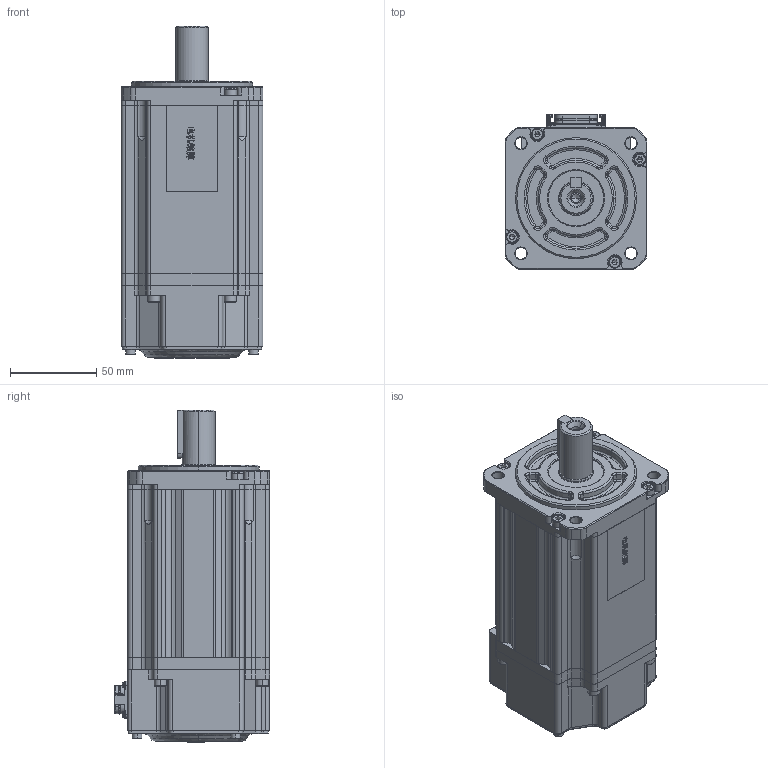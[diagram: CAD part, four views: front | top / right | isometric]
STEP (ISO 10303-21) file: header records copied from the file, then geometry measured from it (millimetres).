
FILE_DESCRIPTION (( 'STEP AP203' ), '1' );
FILE_NAME ('MC20-080-3L30-N751-1¡õCK-NNNN.STEP', '2026-04-20T15:25:29', ( '' ), ( '' ), 'SwSTEP 2.0', 'SolidWorks 2014', '' );
FILE_SCHEMA (( 'CONFIG_CONTROL_DESIGN' ));
Products named in the file (1): MC20-080-3L30-N751-1¡õCK-NNNN
Bounding box: 82 x 89.65 x 192 mm (x, y, z)
Volume: 983745.6 mm3; surface area: 135589.4 mm2
Topology: 19 solids, 23 shells, 2303 faces, 6045 edges, 3856 vertices
Faces by surface type: plane 1058, cylinder 603, bspline 340, cone 184, torus 118
Entity records: 91285 total; most frequent: CARTESIAN_POINT 37156, ORIENTED_EDGE 11940, DIRECTION 10054, EDGE_CURVE 5970, VERTEX_POINT 3856, VECTOR 3402, LINE 3402, AXIS2_PLACEMENT_3D 3326
